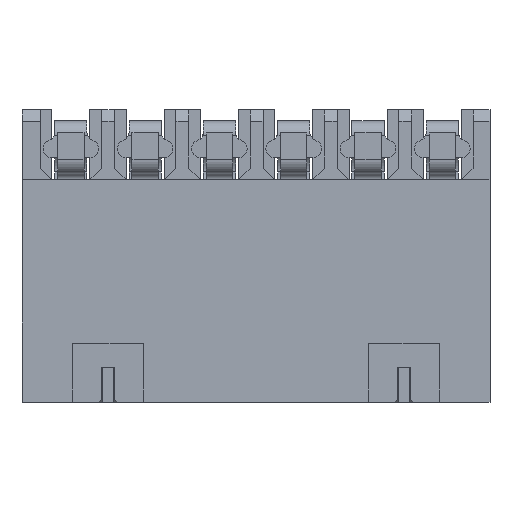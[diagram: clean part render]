
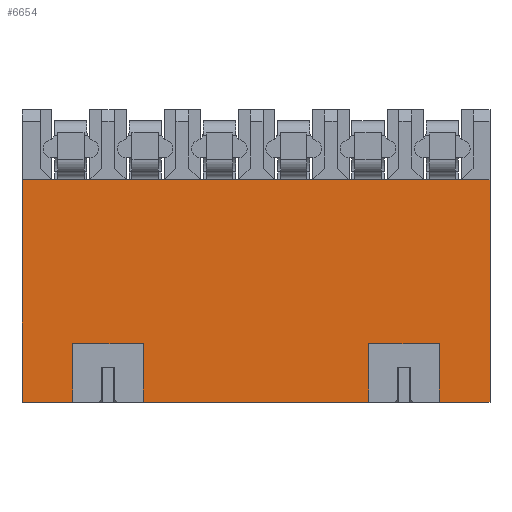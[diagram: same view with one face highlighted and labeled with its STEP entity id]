
A CAD part, top view. The second image highlights one B-rep face of the part: STEP entity #6654.
In plain terms, the highlighted planar face has unit normal (0, 0, 1).
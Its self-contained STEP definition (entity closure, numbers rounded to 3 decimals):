
#731 = DIRECTION ( 'NONE',  ( -1., 0., 0. ) ) ;
#1727 = CARTESIAN_POINT ( 'NONE',  ( -0.715, 1.993, 7.076 ) ) ;
#1974 = VECTOR ( 'NONE', #10106, 1000. ) ;
#2527 = AXIS2_PLACEMENT_3D ( 'NONE', #8414, #10599, #25863 ) ;
#2578 = EDGE_CURVE ( 'NONE', #24506, #17717, #9494, .T. ) ;
#2667 = LINE ( 'NONE', #14499, #1974 ) ;
#3484 = CARTESIAN_POINT ( 'NONE',  ( -0.715, 1.993, 7.076 ) ) ;
#4269 = EDGE_CURVE ( 'NONE', #19855, #15135, #2667, .T. ) ;
#4923 = LINE ( 'NONE', #5323, #23022 ) ;
#4949 = LINE ( 'NONE', #1727, #27452 ) ;
#4957 = CARTESIAN_POINT ( 'NONE',  ( 4.345, 2.993, 7.076 ) ) ;
#4979 = VERTEX_POINT ( 'NONE', #18245 ) ;
#5221 = ORIENTED_EDGE ( 'NONE', *, *, #2578, .T. ) ;
#5323 = CARTESIAN_POINT ( 'NONE',  ( 0.485, 1.993, 7.076 ) ) ;
#5596 = DIRECTION ( 'NONE',  ( 0., 1., 0. ) ) ;
#5628 = VECTOR ( 'NONE', #8270, 1000. ) ;
#6615 = VECTOR ( 'NONE', #15828, 1000. ) ;
#6654 = ADVANCED_FACE ( 'NONE', ( #10698 ), #21486, .F. ) ;
#7282 = VECTOR ( 'NONE', #7609, 1000. ) ;
#7327 = EDGE_CURVE ( 'NONE', #17934, #11601, #24695, .T. ) ;
#7609 = DIRECTION ( 'NONE',  ( 1., 0., 0. ) ) ;
#8270 = DIRECTION ( 'NONE',  ( 1., 0., 0. ) ) ;
#8414 = CARTESIAN_POINT ( 'NONE',  ( -1.585, 1.993, 7.076 ) ) ;
#8828 = VECTOR ( 'NONE', #18680, 1000. ) ;
#8971 = ORIENTED_EDGE ( 'NONE', *, *, #25739, .F. ) ;
#8997 = CARTESIAN_POINT ( 'NONE',  ( 5.545, 1.993, 7.076 ) ) ;
#9002 = CARTESIAN_POINT ( 'NONE',  ( -1.585, 5.793, 7.076 ) ) ;
#9243 = CARTESIAN_POINT ( 'NONE',  ( 6.415, 5.793, 7.076 ) ) ;
#9368 = CARTESIAN_POINT ( 'NONE',  ( -0.715, 2.993, 7.076 ) ) ;
#9494 = LINE ( 'NONE', #14270, #8828 ) ;
#9954 = LINE ( 'NONE', #21256, #15081 ) ;
#10106 = DIRECTION ( 'NONE',  ( 0., -1., 0. ) ) ;
#10127 = CARTESIAN_POINT ( 'NONE',  ( 0.485, 2.993, 7.076 ) ) ;
#10279 = ORIENTED_EDGE ( 'NONE', *, *, #15363, .T. ) ;
#10554 = LINE ( 'NONE', #20837, #20804 ) ;
#10599 = DIRECTION ( 'NONE',  ( 0., 0., -1. ) ) ;
#10698 = FACE_OUTER_BOUND ( 'NONE', #18376, .T. ) ;
#11108 = CARTESIAN_POINT ( 'NONE',  ( -1.585, 1.993, 7.076 ) ) ;
#11419 = LINE ( 'NONE', #19240, #5628 ) ;
#11601 = VERTEX_POINT ( 'NONE', #20314 ) ;
#11623 = VERTEX_POINT ( 'NONE', #4957 ) ;
#12631 = VECTOR ( 'NONE', #731, 1000. ) ;
#12703 = EDGE_CURVE ( 'NONE', #15135, #18451, #11419, .T. ) ;
#13634 = CARTESIAN_POINT ( 'NONE',  ( 4.345, 1.993, 7.076 ) ) ;
#13834 = LINE ( 'NONE', #9002, #20324 ) ;
#14244 = ORIENTED_EDGE ( 'NONE', *, *, #24914, .F. ) ;
#14270 = CARTESIAN_POINT ( 'NONE',  ( -1.585, 1.993, 7.076 ) ) ;
#14499 = CARTESIAN_POINT ( 'NONE',  ( -1.585, 1.993, 7.076 ) ) ;
#14939 = CARTESIAN_POINT ( 'NONE',  ( 5.545, 1.993, 7.076 ) ) ;
#15081 = VECTOR ( 'NONE', #23434, 1000. ) ;
#15135 = VERTEX_POINT ( 'NONE', #11108 ) ;
#15363 = EDGE_CURVE ( 'NONE', #17717, #17698, #10554, .T. ) ;
#15822 = CARTESIAN_POINT ( 'NONE',  ( 6.415, 1.993, 7.076 ) ) ;
#15828 = DIRECTION ( 'NONE',  ( 0., -1., 0. ) ) ;
#16391 = VECTOR ( 'NONE', #21541, 1000. ) ;
#16657 = CARTESIAN_POINT ( 'NONE',  ( 0.485, 1.993, 7.076 ) ) ;
#17698 = VERTEX_POINT ( 'NONE', #9243 ) ;
#17717 = VERTEX_POINT ( 'NONE', #15822 ) ;
#17934 = VERTEX_POINT ( 'NONE', #16657 ) ;
#18245 = CARTESIAN_POINT ( 'NONE',  ( 5.545, 2.993, 7.076 ) ) ;
#18268 = ORIENTED_EDGE ( 'NONE', *, *, #22695, .F. ) ;
#18376 = EDGE_LOOP ( 'NONE', ( #23055, #14244, #22519, #5221, #10279, #18268, #18462, #27120, #22467, #8971, #20775, #19881 ) ) ;
#18415 = DIRECTION ( 'NONE',  ( 0., 1., 0. ) ) ;
#18451 = VERTEX_POINT ( 'NONE', #3484 ) ;
#18462 = ORIENTED_EDGE ( 'NONE', *, *, #4269, .T. ) ;
#18680 = DIRECTION ( 'NONE',  ( 1., 0., 0. ) ) ;
#19110 = EDGE_CURVE ( 'NONE', #25740, #18451, #4949, .T. ) ;
#19139 = LINE ( 'NONE', #22437, #12631 ) ;
#19240 = CARTESIAN_POINT ( 'NONE',  ( -1.585, 1.993, 7.076 ) ) ;
#19855 = VERTEX_POINT ( 'NONE', #27464 ) ;
#19881 = ORIENTED_EDGE ( 'NONE', *, *, #7327, .T. ) ;
#20179 = EDGE_CURVE ( 'NONE', #11623, #11601, #22641, .T. ) ;
#20314 = CARTESIAN_POINT ( 'NONE',  ( 4.345, 1.993, 7.076 ) ) ;
#20324 = VECTOR ( 'NONE', #24275, 1000. ) ;
#20739 = CARTESIAN_POINT ( 'NONE',  ( -1.585, 1.993, 7.076 ) ) ;
#20775 = ORIENTED_EDGE ( 'NONE', *, *, #23518, .F. ) ;
#20804 = VECTOR ( 'NONE', #5596, 1000. ) ;
#20837 = CARTESIAN_POINT ( 'NONE',  ( 6.415, 1.993, 7.076 ) ) ;
#21256 = CARTESIAN_POINT ( 'NONE',  ( -1.585, 2.993, 7.076 ) ) ;
#21354 = DIRECTION ( 'NONE',  ( 0., -1., 0. ) ) ;
#21486 = PLANE ( 'NONE',  #2527 ) ;
#21541 = DIRECTION ( 'NONE',  ( 0., 1., 0. ) ) ;
#22437 = CARTESIAN_POINT ( 'NONE',  ( -1.585, 2.993, 7.076 ) ) ;
#22467 = ORIENTED_EDGE ( 'NONE', *, *, #19110, .F. ) ;
#22519 = ORIENTED_EDGE ( 'NONE', *, *, #26489, .F. ) ;
#22641 = LINE ( 'NONE', #13634, #6615 ) ;
#22695 = EDGE_CURVE ( 'NONE', #19855, #17698, #13834, .T. ) ;
#22893 = LINE ( 'NONE', #14939, #16391 ) ;
#23022 = VECTOR ( 'NONE', #18415, 1000. ) ;
#23055 = ORIENTED_EDGE ( 'NONE', *, *, #20179, .F. ) ;
#23434 = DIRECTION ( 'NONE',  ( -1., 0., 0. ) ) ;
#23518 = EDGE_CURVE ( 'NONE', #17934, #24187, #4923, .T. ) ;
#24187 = VERTEX_POINT ( 'NONE', #10127 ) ;
#24275 = DIRECTION ( 'NONE',  ( 1., 0., 0. ) ) ;
#24506 = VERTEX_POINT ( 'NONE', #8997 ) ;
#24695 = LINE ( 'NONE', #20739, #7282 ) ;
#24914 = EDGE_CURVE ( 'NONE', #4979, #11623, #9954, .T. ) ;
#25739 = EDGE_CURVE ( 'NONE', #24187, #25740, #19139, .T. ) ;
#25740 = VERTEX_POINT ( 'NONE', #9368 ) ;
#25863 = DIRECTION ( 'NONE',  ( -1., 0., 0. ) ) ;
#26489 = EDGE_CURVE ( 'NONE', #24506, #4979, #22893, .T. ) ;
#27120 = ORIENTED_EDGE ( 'NONE', *, *, #12703, .T. ) ;
#27452 = VECTOR ( 'NONE', #21354, 1000. ) ;
#27464 = CARTESIAN_POINT ( 'NONE',  ( -1.585, 5.793, 7.076 ) ) ;
